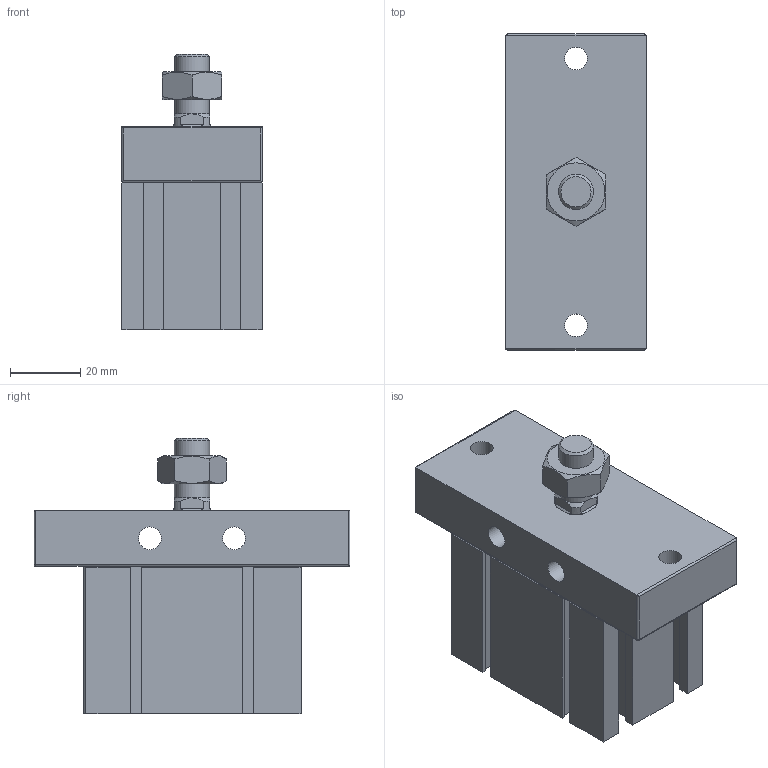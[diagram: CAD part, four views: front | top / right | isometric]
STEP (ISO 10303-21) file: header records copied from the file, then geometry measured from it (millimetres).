
FILE_DESCRIPTION((''),'2;1');
FILE_NAME('J:\3D電子目錄\氣缸\ND\ND\ND32-FB\ND32x10-FB.stp','2008-03-13T08:20:00',('66-2f-008'),(''),'Autodesk Inventor 11','Autodesk Inventor 11','');
FILE_SCHEMA(('AUTOMOTIVE_DESIGN { 1 0 10303 214 1 1 1 1 }'));
Length unit declared in the file: millimetre
Products named in the file (1): ND32-FB
Bounding box: 40 x 90 x 78.5 mm (x, y, z)
Volume: 145951.3 mm3; surface area: 30046.8 mm2
Topology: 2 solids, 2 shells, 154 faces, 393 edges, 252 vertices
Faces by surface type: plane 99, cylinder 23, cone 15, bspline 14, sphere 2, torus 1
Full cylindrical faces by diameter (mm): 2.2 x2, 6.5 x2, 10 x2, 23 x1, 34 x1, 36 x1
Entity records: 4540 total; most frequent: CARTESIAN_POINT 979, ORIENTED_EDGE 710, DIRECTION 702, EDGE_CURVE 355, VECTOR 250, LINE 250, VERTEX_POINT 247, AXIS2_PLACEMENT_3D 226
